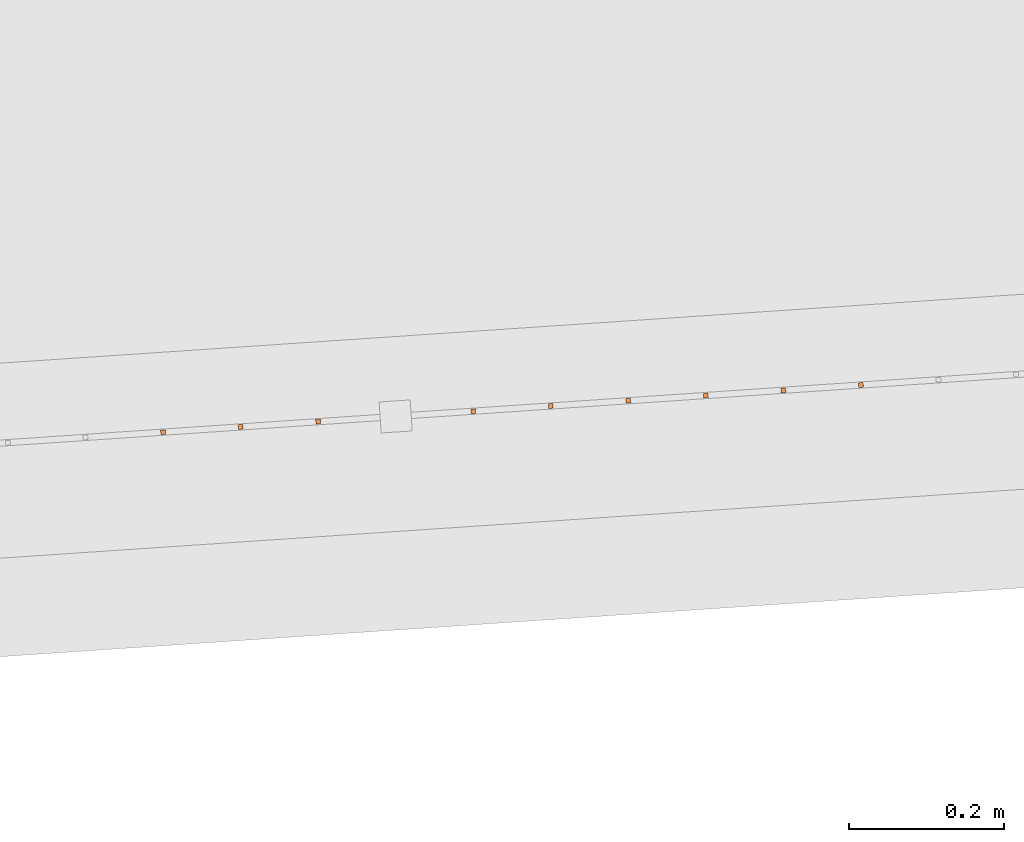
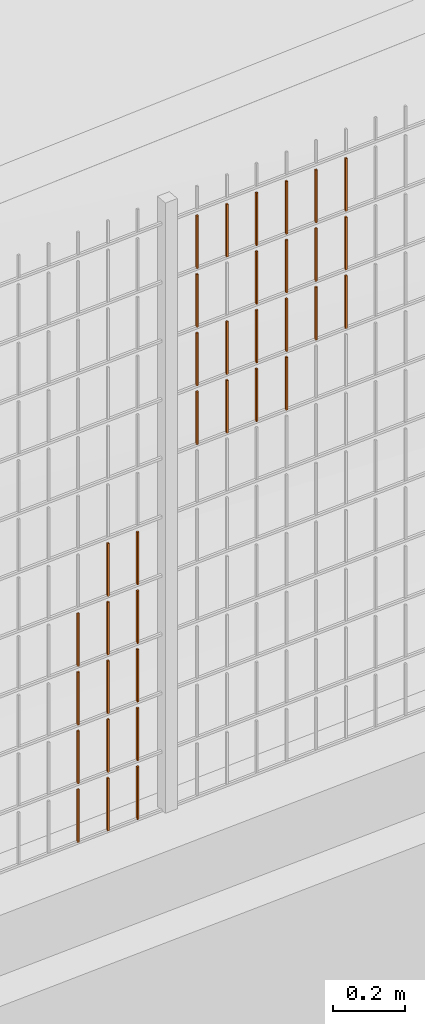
# One storey, part 387 of 1809: 35 proxies, 1 element without a shape of its own.
"""IFC2X3 building model written with IfcOpenShell, lengths in millimetres."""

import ifcopenshell
import ifcopenshell.guid

model = None  # the IFC model being written
_history = None  # IfcOwnerHistory: only IFC2X3 demands one
_inside = {}  # id of a spatial element -> (the spatial element, [elements in it])
_under = {}  # id of a project, library or spatial element -> (it, [spatial elements below it])
_declared = {}  # id of a project -> (the project, [libraries it declares])
_typed = {}  # id of a type object -> (the type object, [elements of that type])
_made_of = {}  # id of a material, layer set ... -> (it, [elements and type objects made of it])


def new_model(schema):
    """Start an empty IFC model of exactly this schema.

    Asked for "IFC4X3", IfcOpenShell would pick the latest addendum, in which some entities
    have other attributes; the version numbers below select the first issue.
    IFC2X3 requires an IfcOwnerHistory on every rooted entity: one is made here for all.
    """
    global model, _history
    if schema == "IFC4X3":
        model = ifcopenshell.file(schema_version=(4, 3, 0, 0))
    else:
        model = ifcopenshell.file(schema=schema)
    _inside.clear()
    _under.clear()
    _declared.clear()
    _typed.clear()
    _made_of.clear()
    _history = None
    if model.schema == "IFC2X3":
        org = make("IfcOrganization", Name="unknown")
        user = make(
            "IfcPersonAndOrganization",
            ThePerson=make("IfcPerson", FamilyName="unknown"),
            TheOrganization=org,
        )
        app = make(
            "IfcApplication",
            ApplicationDeveloper=org,
            Version="unknown",
            ApplicationFullName="unknown",
            ApplicationIdentifier="unknown",
        )
        _history = make(
            "IfcOwnerHistory",
            OwningUser=user,
            OwningApplication=app,
            ChangeAction="ADDED",
            CreationDate=0,
        )
    return model


def make(cls, **values):
    """One entity of the class cls with the attributes given. An attribute that is None is left unset."""
    return model.create_entity(
        cls, **{name: value for name, value in values.items() if value is not None}
    )


def entity(cls, *values):
    """Any entity or typed value of the class cls, its attributes in the order of the schema. None: left unset."""
    e = model.create_entity(cls)
    for i, value in enumerate(values):
        if value is not None:
            e[i] = value
    return e


def rooted(cls, **values):
    """An entity with a GlobalId (a new one), such as an element, a storey or a relation."""
    return make(cls, GlobalId=ifcopenshell.guid.new(), OwnerHistory=_history, **values)


def si_unit(unit_type, name, prefix=None):
    """IfcSIUnit, for example si_unit("LENGTHUNIT", "METRE", prefix="MILLI")."""
    return make("IfcSIUnit", UnitType=unit_type, Prefix=prefix, Name=name)


def converted_unit(unit_type, name, factor, base, dimensions=None, offset=None):
    """IfcConversionBasedUnit, such as the inch: factor (a typed value) times the base unit."""
    return make(
        "IfcConversionBasedUnit"
        if offset is None
        else "IfcConversionBasedUnitWithOffset",
        ConversionOffset=offset,
        Dimensions=None
        if dimensions is None
        else entity("IfcDimensionalExponents", *dimensions),
        UnitType=unit_type,
        Name=name,
        ConversionFactor=make(
            "IfcMeasureWithUnit", ValueComponent=factor, UnitComponent=base
        ),
    )


def derived_unit(unit_type, elements):
    """IfcDerivedUnit: a product of units, each with its exponent."""
    return make(
        "IfcDerivedUnit",
        Elements=[
            make("IfcDerivedUnitElement", Unit=unit, Exponent=power)
            for unit, power in elements
        ],
        UnitType=unit_type,
    )


def money_unit(currency):
    """IfcMonetaryUnit."""
    return make("IfcMonetaryUnit", Currency=currency)


def assignment(units):
    """IfcUnitAssignment: the units of a project."""
    return None if units is None else make("IfcUnitAssignment", Units=units)


def point(xyz):
    """IfcCartesianPoint."""
    return None if xyz is None else make("IfcCartesianPoint", Coordinates=xyz)


def direction(xyz):
    """IfcDirection."""
    return None if xyz is None else make("IfcDirection", DirectionRatios=xyz)


def frame(location, z_axis=None, x_axis=None):
    """IfcAxis2Placement3D, a coordinate frame: its origin and axes. An axis left out is left unset."""
    return make(
        "IfcAxis2Placement3D",
        Location=point(location),
        Axis=direction(z_axis),
        RefDirection=direction(x_axis),
    )


def origin_with_axes():
    """The frame at (0, 0, 0) with the z axis (0, 0, 1) and the x axis (1, 0, 0) written out."""
    return frame((0.0, 0.0, 0.0), z_axis=(0.0, 0.0, 1.0), x_axis=(1.0, 0.0, 0.0))


def place(relative_to, where):
    """IfcLocalPlacement: puts the frame where relative to a parent placement (None: the world)."""
    return make(
        "IfcLocalPlacement", PlacementRelTo=relative_to, RelativePlacement=where
    )


def context(
    kind, dimensions, precision=None, world=None, true_north=None, identifier=None
):
    """IfcGeometricRepresentationContext, for example the 3D "Model" context."""
    return make(
        "IfcGeometricRepresentationContext",
        ContextIdentifier=identifier,
        ContextType=kind,
        CoordinateSpaceDimension=dimensions,
        Precision=precision,
        WorldCoordinateSystem=world,
        TrueNorth=true_north,
    )


def subcontext(parent, identifier, kind, view, scale=None):
    """IfcGeometricRepresentationSubContext, for example "Body" below "Model"."""
    return make(
        "IfcGeometricRepresentationSubContext",
        ContextIdentifier=identifier,
        ContextType=kind,
        ParentContext=parent,
        TargetScale=scale,
        TargetView=view,
    )


def project(units=None, contexts=None):
    """IfcProject with its units and contexts."""
    return rooted(
        "IfcProject",
        Name="project",
        RepresentationContexts=contexts,
        UnitsInContext=assignment(units),
    )


def spatial(cls, under=None, at=None, **own):
    """A site, building, storey or space (cls), placed at a placement, below another one or the project."""
    s = rooted(cls, ObjectPlacement=at, **own)
    if under is not None:
        _under.setdefault(under.id(), (under, []))[1].append(s)
    return s


def faces_of(points, faces, orient=None, outer=None):
    """IfcFace entities. A face is a list of loops; a loop is a list of indices into points, from 0.

    orient and outer hold one flag for each loop. By default every Orientation is true, the
    first loop of a face is its IfcFaceOuterBound and the others are IfcFaceBound.
    """
    made = []
    for i, loops in enumerate(faces):
        bounds = []
        for j, loop in enumerate(loops):
            is_outer = j == 0 if outer is None else outer[i][j]
            bounds.append(
                make(
                    "IfcFaceOuterBound" if is_outer else "IfcFaceBound",
                    Bound=make("IfcPolyLoop", Polygon=[points[k] for k in loop]),
                    Orientation=True if orient is None else orient[i][j],
                )
            )
        made.append(make("IfcFace", Bounds=bounds))
    return made


def faceted_brep(points, faces, orient=None, outer=None, voids=None):
    """IfcFacetedBrep: a solid bounded by flat faces; with voids (closed shells), ...WithVoids."""
    shared = [point(p) for p in points]
    hull = make("IfcClosedShell", CfsFaces=faces_of(shared, faces, orient, outer))
    if voids is None:
        return make("IfcFacetedBrep", Outer=hull)
    return make(
        "IfcFacetedBrepWithVoids",
        Outer=hull,
        Voids=[
            make(cls, CfsFaces=faces_of(shared, fs, o, b)) for cls, fs, o, b in voids
        ],
    )


def shape(context_of_items, identifier, shape_type, items):
    """IfcShapeRepresentation: the items that make up one representation, for example the "Body"."""
    return make(
        "IfcShapeRepresentation",
        ContextOfItems=context_of_items,
        RepresentationIdentifier=identifier,
        RepresentationType=shape_type,
        Items=items,
    )


def source(mapping_origin, context_of_items, identifier, shape_type, items):
    """IfcRepresentationMap: a shape defined once, which mapped items show again and again."""
    return make(
        "IfcRepresentationMap",
        MappingOrigin=mapping_origin,
        MappedRepresentation=shape(context_of_items, identifier, shape_type, items),
    )


def transform(
    local_origin,
    x_axis=None,
    y_axis=None,
    z_axis=None,
    scale=None,
    scale2=None,
    scale3=None,
    uniform=True,
):
    """IfcCartesianTransformationOperator3D, or its non-uniform kind. x_axis, y_axis, z_axis: its Axis1, 2, 3."""
    if uniform:
        return make(
            "IfcCartesianTransformationOperator3D",
            Axis1=direction(x_axis),
            Axis2=direction(y_axis),
            LocalOrigin=point(local_origin),
            Scale=scale,
            Axis3=direction(z_axis),
        )
    return make(
        "IfcCartesianTransformationOperator3DnonUniform",
        Axis1=direction(x_axis),
        Axis2=direction(y_axis),
        LocalOrigin=point(local_origin),
        Scale=scale,
        Axis3=direction(z_axis),
        Scale2=scale2,
        Scale3=scale3,
    )


def mapped(mapping_source, mapping_target):
    """IfcMappedItem: shows the shape of a source again, moved by a transform."""
    return make(
        "IfcMappedItem", MappingSource=mapping_source, MappingTarget=mapping_target
    )


def material(Name=None, Category=None):
    """IfcMaterial."""
    return make("IfcMaterial", Name=Name, Category=Category)


def made_of(thing, what):
    """Note that an element or type object is made of a material, layer set ...; save() writes the relation."""
    if what is not None:
        _made_of.setdefault(what.id(), (what, []))[1].append(thing)
    return thing


def type_object(cls, material=None, **own):
    """A type object (cls), such as IfcWallType, which elements share."""
    return made_of(rooted(cls, **own), material)


def element(
    cls,
    number,
    at=None,
    inside=None,
    cuts=None,
    type_object=None,
    material=None,
    context=None,
    identifier="Body",
    shape_type=None,
    held_by="IfcProductDefinitionShape",
    body=None,
    shapes=None,
    **own,
):
    """One element of the class cls, such as IfcWall. Its Tag is "e" and its number.

    at: its placement. inside: the storey or other place that contains it. cuts: it is an
    opening in that element (IfcRelVoidsElement). A single representation is given by context,
    identifier, shape_type and body (its items); several are given by shapes. held_by: the class
    of the entity that holds the representations. save() writes the other relations.
    """
    e = rooted(cls, Tag="e%d" % number, ObjectPlacement=at, **own)
    if body is not None:
        shapes = [shape(context, identifier, shape_type, body)]
    if shapes is not None:
        e.Representation = make(held_by, Representations=shapes)
    if inside is not None:
        _inside.setdefault(inside.id(), (inside, []))[1].append(e)
    if cuts is not None:
        rooted(
            "IfcRelVoidsElement", RelatingBuildingElement=cuts, RelatedOpeningElement=e
        )
    if type_object is not None:
        _typed.setdefault(type_object.id(), (type_object, []))[1].append(e)
    return made_of(e, material)


def aggregate(whole, parts):
    """IfcRelAggregates: a whole, such as a stair, and the parts it consists of."""
    return rooted("IfcRelAggregates", RelatingObject=whole, RelatedObjects=parts)


def save(model, path):
    """Write the relations noted so far, then the file.

    IfcRelAggregates (storeys below a building ...), IfcRelContainedInSpatialStructure (elements
    in a storey), IfcRelDefinesByType, IfcRelAssociatesMaterial and IfcRelDeclares: one each for
    every whole, place, type object, material and project.
    """
    for whole, parts in _under.values():
        aggregate(whole, parts)
    for where, things in _inside.values():
        rooted(
            "IfcRelContainedInSpatialStructure",
            RelatedElements=things,
            RelatingStructure=where,
        )
    for kind, things in _typed.values():
        rooted("IfcRelDefinesByType", RelatedObjects=things, RelatingType=kind)
    for what, things in _made_of.values():
        rooted("IfcRelAssociatesMaterial", RelatedObjects=things, RelatingMaterial=what)
    for by, libraries in _declared.values():
        rooted("IfcRelDeclares", RelatingContext=by, RelatedDefinitions=libraries)
    model.write(path)


model = new_model("IFC2X3")

# Units and contexts
model_context = context("Model", 3, precision=0.01, world=origin_with_axes(), true_north=direction((0.0, 1.0)))
body_context = subcontext(model_context, "Body", "Model", "MODEL_VIEW")
ifc_project = project(units=[si_unit("LENGTHUNIT", "METRE", prefix="MILLI"), si_unit("AREAUNIT", "SQUARE_METRE"), si_unit("VOLUMEUNIT", "CUBIC_METRE"), converted_unit("PLANEANGLEUNIT", "DEGREE", entity("IfcPlaneAngleMeasure", 0.0174532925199), si_unit("PLANEANGLEUNIT", "RADIAN"), dimensions=[0, 0, 0, 0, 0, 0, 0]), si_unit("SOLIDANGLEUNIT", "STERADIAN"), money_unit("EUR"), converted_unit("TIMEUNIT", "Year", entity("IfcTimeMeasure", 31556926.0), si_unit("TIMEUNIT", "SECOND"), dimensions=[0, 0, 1, 0, 0, 0, 0]), si_unit("MASSUNIT", "GRAM", prefix="KILO"), si_unit("THERMODYNAMICTEMPERATUREUNIT", "DEGREE_CELSIUS"), si_unit("LUMINOUSINTENSITYUNIT", "LUMEN"), si_unit("ENERGYUNIT", "JOULE", prefix="MEGA"), derived_unit("THERMALCONDUCTANCEUNIT", [(si_unit("POWERUNIT", "WATT"), 1), (si_unit("LENGTHUNIT", "METRE"), -1), (si_unit("THERMODYNAMICTEMPERATUREUNIT", "KELVIN"), -1)]), derived_unit("SPECIFICHEATCAPACITYUNIT", [(si_unit("ENERGYUNIT", "JOULE"), 1), (si_unit("MASSUNIT", "GRAM", prefix="KILO"), -1), (si_unit("THERMODYNAMICTEMPERATUREUNIT", "KELVIN"), -1)]), derived_unit("MASSDENSITYUNIT", [(si_unit("MASSUNIT", "GRAM", prefix="KILO"), 1), (si_unit("VOLUMEUNIT", "CUBIC_METRE"), -1)])], contexts=[model_context])

# Site, building, storey
site_placement = place(None, origin_with_axes())
site = spatial("IfcSite", under=ifc_project, at=site_placement, Name="Politse- ja Piirivalveameti ning Päästeameti ühishoone", CompositionType="ELEMENT")
building_placement = place(site_placement, origin_with_axes())
building = spatial("IfcBuilding", under=site, at=building_placement, Name="Politse- ja Piirivalveameti ning Päästeameti ühishoone", CompositionType="ELEMENT")
storey_placement = place(building_placement, origin_with_axes())
storey = spatial("IfcBuildingStorey", under=building, at=storey_placement, Name="Esimene korrus", CompositionType="ELEMENT", Elevation=0.0)

# Proxies
building_element_proxy_type_1 = type_object("IfcBuildingElementProxyType", Name="Railing Type", PredefinedType="NOTDEFINED")
proxy_1_placement = place(storey_placement, frame((89252.001212, -29183.4766571, 203.661247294), z_axis=(0.0, 0.0, 1.0), x_axis=(1.0, 0.0, 0.0)))
proxy_1 = element("IfcBuildingElementProxy", 1, at=proxy_1_placement, inside=storey, type_object=building_element_proxy_type_1, Name="PIIRDEAED")
ifc_material = material(Name="ET-03_Raud")
building_element_proxy_type_2 = type_object("IfcBuildingElementProxyType", Name="IfcBuildingElementProxy", PredefinedType="NOTDEFINED")
shared_shape_1 = source(origin_with_axes(), body_context, "Body", "Brep", [
    faceted_brep([(3.0, 3.0, -0.000752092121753), (-3.0, 3.0, -0.000752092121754), (-3.0, 3.0, 179.99926046), (3.0, 3.0, 179.99926046), (3.0, -3.0, 0.000752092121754), (-3.0, -3.0, 0.000752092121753), (-3.0, -3.0, 180.000764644), (3.0, -3.0, 180.000764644)], [[[0, 1, 2, 3]], [[0, 4, 5, 1]], [[1, 5, 6, 2]], [[3, 2, 6, 7]], [[4, 0, 3, 7]], [[5, 4, 7, 6]]]),
])
proxy_2_placement = place(proxy_1_placement, frame((-15092.2979017, -18317.2025286, 23.4421645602), z_axis=(0.0, 0.0, 1.0), x_axis=(1.0, 0.0, 0.0)))
proxy_2 = element("IfcBuildingElementProxy", 2, at=proxy_2_placement, type_object=building_element_proxy_type_2, material=ifc_material, Name="BALUSTER - 001", context=body_context, shape_type="MappedRepresentation", body=[
    mapped(shared_shape_1, transform((0.0, 0.0, 0.0), x_axis=(-0.0673926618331, 0.997726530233, 0.0), y_axis=(-0.997726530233, -0.0673926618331, 0.0), z_axis=(0.0, 0.0, 1.0))),
])
shared_shape_2 = source(origin_with_axes(), body_context, "Body", "Brep", [
    faceted_brep([(3.0, 3.0, -0.000752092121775), (-3.0, 3.0, -0.000752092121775), (-3.0, 3.0, 179.99926046), (3.0, 3.0, 179.99926046), (3.0, -3.0, 0.000752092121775), (-3.0, -3.0, 0.000752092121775), (-3.0, -3.0, 180.000764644), (3.0, -3.0, 180.000764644)], [[[0, 1, 2, 3]], [[0, 4, 5, 1]], [[1, 5, 6, 2]], [[3, 2, 6, 7]], [[4, 0, 3, 7]], [[5, 4, 7, 6]]]),
])
proxy_3_placement = place(proxy_1_placement, frame((-14992.5252487, -18310.4632624, 23.4672342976), z_axis=(0.0, 0.0, 1.0), x_axis=(1.0, 0.0, 0.0)))
proxy_3 = element("IfcBuildingElementProxy", 3, at=proxy_3_placement, type_object=building_element_proxy_type_2, material=ifc_material, Name="BALUSTER - 001", context=body_context, shape_type="MappedRepresentation", body=[
    mapped(shared_shape_2, transform((0.0, 0.0, 0.0), x_axis=(-0.0673926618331, 0.997726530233, 0.0), y_axis=(-0.997726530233, -0.0673926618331, 0.0), z_axis=(0.0, 0.0, 1.0))),
])
proxy_4_placement = place(proxy_1_placement, frame((-14992.5252487, -18310.4632624, 223.467234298), z_axis=(0.0, 0.0, 1.0), x_axis=(1.0, 0.0, 0.0)))
proxy_4 = element("IfcBuildingElementProxy", 4, at=proxy_4_placement, type_object=building_element_proxy_type_2, material=ifc_material, Name="BALUSTER - 001", context=body_context, shape_type="MappedRepresentation", body=[
    mapped(shared_shape_2, transform((0.0, 0.0, 0.0), x_axis=(-0.0673926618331, 0.997726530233, 0.0), y_axis=(-0.997726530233, -0.0673926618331, 0.0), z_axis=(0.0, 0.0, 1.0))),
])
shared_shape_3 = source(origin_with_axes(), body_context, "Body", "Brep", [
    faceted_brep([(3.0, 3.0, -0.000752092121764), (-3.0, 3.0, -0.000752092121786), (-3.0, 3.0, 179.99926046), (3.0, 3.0, 179.99926046), (3.0, -3.0, 0.000752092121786), (-3.0, -3.0, 0.000752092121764), (-3.0, -3.0, 180.000764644), (3.0, -3.0, 180.000764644)], [[[0, 1, 2, 3]], [[0, 4, 5, 1]], [[1, 5, 6, 2]], [[3, 2, 6, 7]], [[4, 0, 3, 7]], [[5, 4, 7, 6]]]),
])
proxy_5_placement = place(proxy_1_placement, frame((-14892.7525957, -18303.7239962, 23.492304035), z_axis=(0.0, 0.0, 1.0), x_axis=(1.0, 0.0, 0.0)))
proxy_5 = element("IfcBuildingElementProxy", 5, at=proxy_5_placement, type_object=building_element_proxy_type_2, material=ifc_material, Name="BALUSTER - 001", context=body_context, shape_type="MappedRepresentation", body=[
    mapped(shared_shape_3, transform((0.0, 0.0, 0.0), x_axis=(-0.0673926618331, 0.997726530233, 0.0), y_axis=(-0.997726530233, -0.0673926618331, 0.0), z_axis=(0.0, 0.0, 1.0))),
])
shared_shape_4 = source(origin_with_axes(), body_context, "Body", "Brep", [
    faceted_brep([(3.0, 3.0, -0.000752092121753), (-3.0, 3.0, -0.000752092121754), (-3.0, 3.0, 179.99926046), (3.0, 3.0, 179.99926046), (3.0, -3.0, 0.000752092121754), (-3.0, -3.0, 0.000752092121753), (-3.0, -3.0, 180.000764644), (3.0, -3.0, 180.000764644)], [[[0, 1, 2, 3]], [[0, 4, 5, 1]], [[1, 5, 6, 2]], [[3, 2, 6, 7]], [[4, 0, 3, 7]], [[5, 4, 7, 6]]]),
])
proxy_6_placement = place(proxy_1_placement, frame((-15092.2979017, -18317.2025286, 223.44216456), z_axis=(0.0, 0.0, 1.0), x_axis=(1.0, 0.0, 0.0)))
proxy_6 = element("IfcBuildingElementProxy", 6, at=proxy_6_placement, type_object=building_element_proxy_type_2, material=ifc_material, Name="BALUSTER - 001", context=body_context, shape_type="MappedRepresentation", body=[
    mapped(shared_shape_4, transform((0.0, 0.0, 0.0), x_axis=(-0.0673926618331, 0.997726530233, 0.0), y_axis=(-0.997726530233, -0.0673926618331, 0.0), z_axis=(0.0, 0.0, 1.0))),
])
proxy_7_placement = place(proxy_1_placement, frame((-15092.2979017, -18317.2025286, 423.44216456), z_axis=(0.0, 0.0, 1.0), x_axis=(1.0, 0.0, 0.0)))
proxy_7 = element("IfcBuildingElementProxy", 7, at=proxy_7_placement, type_object=building_element_proxy_type_2, material=ifc_material, Name="BALUSTER - 001", context=body_context, shape_type="MappedRepresentation", body=[
    mapped(shared_shape_4, transform((0.0, 0.0, 0.0), x_axis=(-0.0673926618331, 0.997726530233, 0.0), y_axis=(-0.997726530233, -0.0673926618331, 0.0), z_axis=(0.0, 0.0, 1.0))),
])
shared_shape_5 = source(origin_with_axes(), body_context, "Body", "Brep", [
    faceted_brep([(3.0, 3.0, -0.000752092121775), (-3.0, 3.0, -0.000752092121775), (-3.0, 3.0, 179.99926046), (3.0, 3.0, 179.99926046), (3.0, -3.0, 0.000752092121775), (-3.0, -3.0, 0.000752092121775), (-3.0, -3.0, 180.000764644), (3.0, -3.0, 180.000764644)], [[[0, 1, 2, 3]], [[0, 4, 5, 1]], [[1, 5, 6, 2]], [[3, 2, 6, 7]], [[4, 0, 3, 7]], [[5, 4, 7, 6]]]),
])
proxy_8_placement = place(proxy_1_placement, frame((-14992.5252487, -18310.4632624, 423.467234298), z_axis=(0.0, 0.0, 1.0), x_axis=(1.0, 0.0, 0.0)))
proxy_8 = element("IfcBuildingElementProxy", 8, at=proxy_8_placement, type_object=building_element_proxy_type_2, material=ifc_material, Name="BALUSTER - 001", context=body_context, shape_type="MappedRepresentation", body=[
    mapped(shared_shape_5, transform((0.0, 0.0, 0.0), x_axis=(-0.0673926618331, 0.997726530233, 0.0), y_axis=(-0.997726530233, -0.0673926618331, 0.0), z_axis=(0.0, 0.0, 1.0))),
])
shared_shape_6 = source(origin_with_axes(), body_context, "Body", "Brep", [
    faceted_brep([(3.0, 3.0, -0.000752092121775), (-3.0, 3.0, -0.000752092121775), (-3.0, 3.0, 179.99926046), (3.0, 3.0, 179.99926046), (3.0, -3.0, 0.000752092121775), (-3.0, -3.0, 0.000752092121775), (-3.0, -3.0, 180.000764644), (3.0, -3.0, 180.000764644)], [[[0, 1, 2, 3]], [[0, 4, 5, 1]], [[1, 5, 6, 2]], [[3, 2, 6, 7]], [[4, 0, 3, 7]], [[5, 4, 7, 6]]]),
])
proxy_9_placement = place(proxy_1_placement, frame((-14992.5252487, -18310.4632624, 823.467234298), z_axis=(0.0, 0.0, 1.0), x_axis=(1.0, 0.0, 0.0)))
proxy_9 = element("IfcBuildingElementProxy", 9, at=proxy_9_placement, type_object=building_element_proxy_type_2, material=ifc_material, Name="BALUSTER - 001", context=body_context, shape_type="MappedRepresentation", body=[
    mapped(shared_shape_6, transform((0.0, 0.0, 0.0), x_axis=(-0.0673926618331, 0.997726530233, 0.0), y_axis=(-0.997726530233, -0.0673926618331, 0.0), z_axis=(0.0, 0.0, 1.0))),
])
shared_shape_7 = source(origin_with_axes(), body_context, "Body", "Brep", [
    faceted_brep([(3.0, 3.0, -0.000752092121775), (-3.0, 3.0, -0.000752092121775), (-3.0, 3.0, 179.99926046), (3.0, 3.0, 179.99926046), (3.0, -3.0, 0.000752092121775), (-3.0, -3.0, 0.000752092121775), (-3.0, -3.0, 180.000764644), (3.0, -3.0, 180.000764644)], [[[0, 1, 2, 3]], [[0, 4, 5, 1]], [[1, 5, 6, 2]], [[3, 2, 6, 7]], [[4, 0, 3, 7]], [[5, 4, 7, 6]]]),
])
proxy_10_placement = place(proxy_1_placement, frame((-14992.5252487, -18310.4632624, 623.467234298), z_axis=(0.0, 0.0, 1.0), x_axis=(1.0, 0.0, 0.0)))
proxy_10 = element("IfcBuildingElementProxy", 10, at=proxy_10_placement, type_object=building_element_proxy_type_2, material=ifc_material, Name="BALUSTER - 001", context=body_context, shape_type="MappedRepresentation", body=[
    mapped(shared_shape_7, transform((0.0, 0.0, 0.0), x_axis=(-0.0673926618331, 0.997726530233, 0.0), y_axis=(-0.997726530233, -0.0673926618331, 0.0), z_axis=(0.0, 0.0, 1.0))),
])
shared_shape_8 = source(origin_with_axes(), body_context, "Body", "Brep", [
    faceted_brep([(3.0, 3.0, -0.000752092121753), (-3.0, 3.0, -0.000752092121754), (-3.0, 3.0, 179.99926046), (3.0, 3.0, 179.99926046), (3.0, -3.0, 0.000752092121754), (-3.0, -3.0, 0.000752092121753), (-3.0, -3.0, 180.000764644), (3.0, -3.0, 180.000764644)], [[[0, 1, 2, 3]], [[0, 4, 5, 1]], [[1, 5, 6, 2]], [[3, 2, 6, 7]], [[4, 0, 3, 7]], [[5, 4, 7, 6]]]),
])
proxy_11_placement = place(proxy_1_placement, frame((-15092.2979017, -18317.2025286, 623.44216456), z_axis=(0.0, 0.0, 1.0), x_axis=(1.0, 0.0, 0.0)))
proxy_11 = element("IfcBuildingElementProxy", 11, at=proxy_11_placement, type_object=building_element_proxy_type_2, material=ifc_material, Name="BALUSTER - 001", context=body_context, shape_type="MappedRepresentation", body=[
    mapped(shared_shape_8, transform((0.0, 0.0, 0.0), x_axis=(-0.0673926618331, 0.997726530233, 0.0), y_axis=(-0.997726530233, -0.0673926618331, 0.0), z_axis=(0.0, 0.0, 1.0))),
])
shared_shape_9 = source(origin_with_axes(), body_context, "Body", "Brep", [
    faceted_brep([(3.0, 3.0, -0.000752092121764), (-3.0, 3.0, -0.000752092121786), (-3.0, 3.0, 179.99926046), (3.0, 3.0, 179.99926046), (3.0, -3.0, 0.000752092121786), (-3.0, -3.0, 0.000752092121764), (-3.0, -3.0, 180.000764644), (3.0, -3.0, 180.000764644)], [[[0, 1, 2, 3]], [[0, 4, 5, 1]], [[1, 5, 6, 2]], [[3, 2, 6, 7]], [[4, 0, 3, 7]], [[5, 4, 7, 6]]]),
])
proxy_12_placement = place(proxy_1_placement, frame((-14892.7525957, -18303.7239962, 823.492304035), z_axis=(0.0, 0.0, 1.0), x_axis=(1.0, 0.0, 0.0)))
proxy_12 = element("IfcBuildingElementProxy", 12, at=proxy_12_placement, type_object=building_element_proxy_type_2, material=ifc_material, Name="BALUSTER - 001", context=body_context, shape_type="MappedRepresentation", body=[
    mapped(shared_shape_9, transform((0.0, 0.0, 0.0), x_axis=(-0.0673926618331, 0.997726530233, 0.0), y_axis=(-0.997726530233, -0.0673926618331, 0.0), z_axis=(0.0, 0.0, 1.0))),
])
shared_shape_10 = source(origin_with_axes(), body_context, "Body", "Brep", [
    faceted_brep([(3.0, 3.0, -0.000752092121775), (-3.0, 3.0, -0.000752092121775), (-3.0, 3.0, 179.99926046), (3.0, 3.0, 179.99926046), (3.0, -3.0, 0.000752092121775), (-3.0, -3.0, 0.000752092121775), (-3.0, -3.0, 180.000764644), (3.0, -3.0, 180.000764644)], [[[0, 1, 2, 3]], [[0, 4, 5, 1]], [[1, 5, 6, 2]], [[3, 2, 6, 7]], [[4, 0, 3, 7]], [[5, 4, 7, 6]]]),
])
proxy_13_placement = place(proxy_1_placement, frame((-14493.6619836, -18276.7669315, 1223.59258298), z_axis=(0.0, 0.0, 1.0), x_axis=(1.0, 0.0, 0.0)))
proxy_13 = element("IfcBuildingElementProxy", 13, at=proxy_13_placement, type_object=building_element_proxy_type_2, material=ifc_material, Name="BALUSTER - 001", context=body_context, shape_type="MappedRepresentation", body=[
    mapped(shared_shape_10, transform((0.0, 0.0, 0.0), x_axis=(-0.0673926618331, 0.997726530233, 0.0), y_axis=(-0.997726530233, -0.0673926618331, 0.0), z_axis=(0.0, 0.0, 1.0))),
])
proxy_14_placement = place(proxy_1_placement, frame((-14393.8893305, -18270.0276653, 1823.61765272), z_axis=(0.0, 0.0, 1.0), x_axis=(1.0, 0.0, 0.0)))
proxy_14 = element("IfcBuildingElementProxy", 14, at=proxy_14_placement, type_object=building_element_proxy_type_2, material=ifc_material, Name="BALUSTER - 001", context=body_context, shape_type="MappedRepresentation", body=[
    mapped(shared_shape_10, transform((0.0, 0.0, 0.0), x_axis=(-0.0673926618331, 0.997726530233, 0.0), y_axis=(-0.997726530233, -0.0673926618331, 0.0), z_axis=(0.0, 0.0, 1.0))),
])
shared_shape_11 = source(origin_with_axes(), body_context, "Body", "Brep", [
    faceted_brep([(3.0, 3.0, -0.000752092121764), (-3.0, 3.0, -0.000752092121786), (-3.0, 3.0, 179.99926046), (3.0, 3.0, 179.99926046), (3.0, -3.0, 0.000752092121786), (-3.0, -3.0, 0.000752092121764), (-3.0, -3.0, 180.000764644), (3.0, -3.0, 180.000764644)], [[[0, 1, 2, 3]], [[0, 4, 5, 1]], [[1, 5, 6, 2]], [[3, 2, 6, 7]], [[4, 0, 3, 7]], [[5, 4, 7, 6]]]),
])
proxy_15_placement = place(proxy_1_placement, frame((-14693.2072896, -18290.2454639, 1823.54244351), z_axis=(0.0, 0.0, 1.0), x_axis=(1.0, 0.0, 0.0)))
proxy_15 = element("IfcBuildingElementProxy", 15, at=proxy_15_placement, type_object=building_element_proxy_type_2, material=ifc_material, Name="BALUSTER - 001", context=body_context, shape_type="MappedRepresentation", body=[
    mapped(shared_shape_11, transform((0.0, 0.0, 0.0), x_axis=(-0.0673926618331, 0.997726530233, 0.0), y_axis=(-0.997726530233, -0.0673926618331, 0.0), z_axis=(0.0, 0.0, 1.0))),
])
shared_shape_12 = source(origin_with_axes(), body_context, "Body", "Brep", [
    faceted_brep([(3.0, 3.0, -0.000752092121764), (-3.0, 3.0, -0.000752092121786), (-3.0, 3.0, 179.99926046), (3.0, 3.0, 179.99926046), (3.0, -3.0, 0.000752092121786), (-3.0, -3.0, 0.000752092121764), (-3.0, -3.0, 180.000764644), (3.0, -3.0, 180.000764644)], [[[0, 1, 2, 3]], [[0, 4, 5, 1]], [[1, 5, 6, 2]], [[3, 2, 6, 7]], [[4, 0, 3, 7]], [[5, 4, 7, 6]]]),
])
proxy_16_placement = place(proxy_1_placement, frame((-14194.3440245, -18256.5491329, 1623.6677922), z_axis=(0.0, 0.0, 1.0), x_axis=(1.0, 0.0, 0.0)))
proxy_16 = element("IfcBuildingElementProxy", 16, at=proxy_16_placement, type_object=building_element_proxy_type_2, material=ifc_material, Name="BALUSTER - 001", context=body_context, shape_type="MappedRepresentation", body=[
    mapped(shared_shape_12, transform((0.0, 0.0, 0.0), x_axis=(-0.0673926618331, 0.997726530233, 0.0), y_axis=(-0.997726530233, -0.0673926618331, 0.0), z_axis=(0.0, 0.0, 1.0))),
])
shared_shape_13 = source(origin_with_axes(), body_context, "Body", "Brep", [
    faceted_brep([(3.0, 3.0, -0.000752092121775), (-3.0, 3.0, -0.000752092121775), (-3.0, 3.0, 179.99926046), (3.0, 3.0, 179.99926046), (3.0, -3.0, 0.000752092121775), (-3.0, -3.0, 0.000752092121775), (-3.0, -3.0, 180.000764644), (3.0, -3.0, 180.000764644)], [[[0, 1, 2, 3]], [[0, 4, 5, 1]], [[1, 5, 6, 2]], [[3, 2, 6, 7]], [[4, 0, 3, 7]], [[5, 4, 7, 6]]]),
])
proxy_17_placement = place(proxy_1_placement, frame((-14393.8893305, -18270.0276653, 1223.61765272), z_axis=(0.0, 0.0, 1.0), x_axis=(1.0, 0.0, 0.0)))
proxy_17 = element("IfcBuildingElementProxy", 17, at=proxy_17_placement, type_object=building_element_proxy_type_2, material=ifc_material, Name="BALUSTER - 001", context=body_context, shape_type="MappedRepresentation", body=[
    mapped(shared_shape_13, transform((0.0, 0.0, 0.0), x_axis=(-0.0673926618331, 0.997726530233, 0.0), y_axis=(-0.997726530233, -0.0673926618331, 0.0), z_axis=(0.0, 0.0, 1.0))),
])
proxy_18_placement = place(proxy_1_placement, frame((-14493.6619836, -18276.7669315, 1823.59258298), z_axis=(0.0, 0.0, 1.0), x_axis=(1.0, 0.0, 0.0)))
proxy_18 = element("IfcBuildingElementProxy", 18, at=proxy_18_placement, type_object=building_element_proxy_type_2, material=ifc_material, Name="BALUSTER - 001", context=body_context, shape_type="MappedRepresentation", body=[
    mapped(shared_shape_13, transform((0.0, 0.0, 0.0), x_axis=(-0.0673926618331, 0.997726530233, 0.0), y_axis=(-0.997726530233, -0.0673926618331, 0.0), z_axis=(0.0, 0.0, 1.0))),
])
shared_shape_14 = source(origin_with_axes(), body_context, "Body", "Brep", [
    faceted_brep([(3.0, 3.0, -0.000752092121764), (-3.0, 3.0, -0.000752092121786), (-3.0, 3.0, 179.99926046), (3.0, 3.0, 179.99926046), (3.0, -3.0, 0.000752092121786), (-3.0, -3.0, 0.000752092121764), (-3.0, -3.0, 180.000764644), (3.0, -3.0, 180.000764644)], [[[0, 1, 2, 3]], [[0, 4, 5, 1]], [[1, 5, 6, 2]], [[3, 2, 6, 7]], [[4, 0, 3, 7]], [[5, 4, 7, 6]]]),
])
proxy_19_placement = place(proxy_1_placement, frame((-14693.2072896, -18290.2454639, 1223.54244351), z_axis=(0.0, 0.0, 1.0), x_axis=(1.0, 0.0, 0.0)))
proxy_19 = element("IfcBuildingElementProxy", 19, at=proxy_19_placement, type_object=building_element_proxy_type_2, material=ifc_material, Name="BALUSTER - 001", context=body_context, shape_type="MappedRepresentation", body=[
    mapped(shared_shape_14, transform((0.0, 0.0, 0.0), x_axis=(-0.0673926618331, 0.997726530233, 0.0), y_axis=(-0.997726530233, -0.0673926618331, 0.0), z_axis=(0.0, 0.0, 1.0))),
])
shared_shape_15 = source(origin_with_axes(), body_context, "Body", "Brep", [
    faceted_brep([(3.0, 3.0, -0.000752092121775), (-3.0, 3.0, -0.000752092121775), (-3.0, 3.0, 179.99926046), (3.0, 3.0, 179.99926046), (3.0, -3.0, 0.000752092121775), (-3.0, -3.0, 0.000752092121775), (-3.0, -3.0, 180.000764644), (3.0, -3.0, 180.000764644)], [[[0, 1, 2, 3]], [[0, 4, 5, 1]], [[1, 5, 6, 2]], [[3, 2, 6, 7]], [[4, 0, 3, 7]], [[5, 4, 7, 6]]]),
])
proxy_20_placement = place(proxy_1_placement, frame((-14393.8893305, -18270.0276653, 1423.61765272), z_axis=(0.0, 0.0, 1.0), x_axis=(1.0, 0.0, 0.0)))
proxy_20 = element("IfcBuildingElementProxy", 20, at=proxy_20_placement, type_object=building_element_proxy_type_2, material=ifc_material, Name="BALUSTER - 001", context=body_context, shape_type="MappedRepresentation", body=[
    mapped(shared_shape_15, transform((0.0, 0.0, 0.0), x_axis=(-0.0673926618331, 0.997726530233, 0.0), y_axis=(-0.997726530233, -0.0673926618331, 0.0), z_axis=(0.0, 0.0, 1.0))),
])
proxy_21_placement = place(proxy_1_placement, frame((-14393.8893305, -18270.0276653, 1623.61765272), z_axis=(0.0, 0.0, 1.0), x_axis=(1.0, 0.0, 0.0)))
proxy_21 = element("IfcBuildingElementProxy", 21, at=proxy_21_placement, type_object=building_element_proxy_type_2, material=ifc_material, Name="BALUSTER - 001", context=body_context, shape_type="MappedRepresentation", body=[
    mapped(shared_shape_15, transform((0.0, 0.0, 0.0), x_axis=(-0.0673926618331, 0.997726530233, 0.0), y_axis=(-0.997726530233, -0.0673926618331, 0.0), z_axis=(0.0, 0.0, 1.0))),
])
shared_shape_16 = source(origin_with_axes(), body_context, "Body", "Brep", [
    faceted_brep([(3.0, 3.0, -0.000752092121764), (-3.0, 3.0, -0.000752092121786), (-3.0, 3.0, 179.99926046), (3.0, 3.0, 179.99926046), (3.0, -3.0, 0.000752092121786), (-3.0, -3.0, 0.000752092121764), (-3.0, -3.0, 180.000764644), (3.0, -3.0, 180.000764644)], [[[0, 1, 2, 3]], [[0, 4, 5, 1]], [[1, 5, 6, 2]], [[3, 2, 6, 7]], [[4, 0, 3, 7]], [[5, 4, 7, 6]]]),
])
proxy_22_placement = place(proxy_1_placement, frame((-14194.3440245, -18256.5491329, 1423.6677922), z_axis=(0.0, 0.0, 1.0), x_axis=(1.0, 0.0, 0.0)))
proxy_22 = element("IfcBuildingElementProxy", 22, at=proxy_22_placement, type_object=building_element_proxy_type_2, material=ifc_material, Name="BALUSTER - 001", context=body_context, shape_type="MappedRepresentation", body=[
    mapped(shared_shape_16, transform((0.0, 0.0, 0.0), x_axis=(-0.0673926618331, 0.997726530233, 0.0), y_axis=(-0.997726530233, -0.0673926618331, 0.0), z_axis=(0.0, 0.0, 1.0))),
])
proxy_23_placement = place(proxy_1_placement, frame((-14294.1166775, -18263.2883991, 1423.64272246), z_axis=(0.0, 0.0, 1.0), x_axis=(1.0, 0.0, 0.0)))
proxy_23 = element("IfcBuildingElementProxy", 23, at=proxy_23_placement, type_object=building_element_proxy_type_2, material=ifc_material, Name="BALUSTER - 001", context=body_context, shape_type="MappedRepresentation", body=[
    mapped(shared_shape_16, transform((0.0, 0.0, 0.0), x_axis=(-0.0673926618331, 0.997726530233, 0.0), y_axis=(-0.997726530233, -0.0673926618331, 0.0), z_axis=(0.0, 0.0, 1.0))),
])
shared_shape_17 = source(origin_with_axes(), body_context, "Body", "Brep", [
    faceted_brep([(3.0, 3.0, -0.000752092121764), (-3.0, 3.0, -0.000752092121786), (-3.0, 3.0, 179.99926046), (3.0, 3.0, 179.99926046), (3.0, -3.0, 0.000752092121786), (-3.0, -3.0, 0.000752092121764), (-3.0, -3.0, 180.000764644), (3.0, -3.0, 180.000764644)], [[[0, 1, 2, 3]], [[0, 4, 5, 1]], [[1, 5, 6, 2]], [[3, 2, 6, 7]], [[4, 0, 3, 7]], [[5, 4, 7, 6]]]),
])
proxy_24_placement = place(proxy_1_placement, frame((-14693.2072896, -18290.2454639, 1423.54244351), z_axis=(0.0, 0.0, 1.0), x_axis=(1.0, 0.0, 0.0)))
proxy_24 = element("IfcBuildingElementProxy", 24, at=proxy_24_placement, type_object=building_element_proxy_type_2, material=ifc_material, Name="BALUSTER - 001", context=body_context, shape_type="MappedRepresentation", body=[
    mapped(shared_shape_17, transform((0.0, 0.0, 0.0), x_axis=(-0.0673926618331, 0.997726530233, 0.0), y_axis=(-0.997726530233, -0.0673926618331, 0.0), z_axis=(0.0, 0.0, 1.0))),
])
proxy_25_placement = place(proxy_1_placement, frame((-14693.2072896, -18290.2454639, 1623.54244351), z_axis=(0.0, 0.0, 1.0), x_axis=(1.0, 0.0, 0.0)))
proxy_25 = element("IfcBuildingElementProxy", 25, at=proxy_25_placement, type_object=building_element_proxy_type_2, material=ifc_material, Name="BALUSTER - 001", context=body_context, shape_type="MappedRepresentation", body=[
    mapped(shared_shape_17, transform((0.0, 0.0, 0.0), x_axis=(-0.0673926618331, 0.997726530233, 0.0), y_axis=(-0.997726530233, -0.0673926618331, 0.0), z_axis=(0.0, 0.0, 1.0))),
])
shared_shape_18 = source(origin_with_axes(), body_context, "Body", "Brep", [
    faceted_brep([(3.0, 3.0, -0.000752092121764), (-3.0, 3.0, -0.000752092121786), (-3.0, 3.0, 179.99926046), (3.0, 3.0, 179.99926046), (3.0, -3.0, 0.000752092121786), (-3.0, -3.0, 0.000752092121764), (-3.0, -3.0, 180.000764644), (3.0, -3.0, 180.000764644)], [[[0, 1, 2, 3]], [[0, 4, 5, 1]], [[1, 5, 6, 2]], [[3, 2, 6, 7]], [[4, 0, 3, 7]], [[5, 4, 7, 6]]]),
])
proxy_26_placement = place(proxy_1_placement, frame((-14194.3440245, -18256.5491329, 1823.6677922), z_axis=(0.0, 0.0, 1.0), x_axis=(1.0, 0.0, 0.0)))
proxy_26 = element("IfcBuildingElementProxy", 26, at=proxy_26_placement, type_object=building_element_proxy_type_2, material=ifc_material, Name="BALUSTER - 001", context=body_context, shape_type="MappedRepresentation", body=[
    mapped(shared_shape_18, transform((0.0, 0.0, 0.0), x_axis=(-0.0673926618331, 0.997726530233, 0.0), y_axis=(-0.997726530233, -0.0673926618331, 0.0), z_axis=(0.0, 0.0, 1.0))),
])
proxy_27_placement = place(proxy_1_placement, frame((-14294.1166775, -18263.2883991, 1823.64272246), z_axis=(0.0, 0.0, 1.0), x_axis=(1.0, 0.0, 0.0)))
proxy_27 = element("IfcBuildingElementProxy", 27, at=proxy_27_placement, type_object=building_element_proxy_type_2, material=ifc_material, Name="BALUSTER - 001", context=body_context, shape_type="MappedRepresentation", body=[
    mapped(shared_shape_18, transform((0.0, 0.0, 0.0), x_axis=(-0.0673926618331, 0.997726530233, 0.0), y_axis=(-0.997726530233, -0.0673926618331, 0.0), z_axis=(0.0, 0.0, 1.0))),
])
shared_shape_19 = source(origin_with_axes(), body_context, "Body", "Brep", [
    faceted_brep([(3.0, 3.0, -0.000752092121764), (-3.0, 3.0, -0.000752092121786), (-3.0, 3.0, 179.99926046), (3.0, 3.0, 179.99926046), (3.0, -3.0, 0.000752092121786), (-3.0, -3.0, 0.000752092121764), (-3.0, -3.0, 180.000764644), (3.0, -3.0, 180.000764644)], [[[0, 1, 2, 3]], [[0, 4, 5, 1]], [[1, 5, 6, 2]], [[3, 2, 6, 7]], [[4, 0, 3, 7]], [[5, 4, 7, 6]]]),
])
proxy_28_placement = place(proxy_1_placement, frame((-14892.7525957, -18303.7239962, 423.492304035), z_axis=(0.0, 0.0, 1.0), x_axis=(1.0, 0.0, 0.0)))
proxy_28 = element("IfcBuildingElementProxy", 28, at=proxy_28_placement, type_object=building_element_proxy_type_2, material=ifc_material, Name="BALUSTER - 001", context=body_context, shape_type="MappedRepresentation", body=[
    mapped(shared_shape_19, transform((0.0, 0.0, 0.0), x_axis=(-0.0673926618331, 0.997726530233, 0.0), y_axis=(-0.997726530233, -0.0673926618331, 0.0), z_axis=(0.0, 0.0, 1.0))),
])
proxy_29_placement = place(proxy_1_placement, frame((-14892.7525957, -18303.7239962, 623.492304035), z_axis=(0.0, 0.0, 1.0), x_axis=(1.0, 0.0, 0.0)))
proxy_29 = element("IfcBuildingElementProxy", 29, at=proxy_29_placement, type_object=building_element_proxy_type_2, material=ifc_material, Name="BALUSTER - 001", context=body_context, shape_type="MappedRepresentation", body=[
    mapped(shared_shape_19, transform((0.0, 0.0, 0.0), x_axis=(-0.0673926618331, 0.997726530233, 0.0), y_axis=(-0.997726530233, -0.0673926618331, 0.0), z_axis=(0.0, 0.0, 1.0))),
])
shared_shape_20 = source(origin_with_axes(), body_context, "Body", "Brep", [
    faceted_brep([(3.0, 3.0, -0.000752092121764), (-3.0, 3.0, -0.000752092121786), (-3.0, 3.0, 179.99926046), (3.0, 3.0, 179.99926046), (3.0, -3.0, 0.000752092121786), (-3.0, -3.0, 0.000752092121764), (-3.0, -3.0, 180.000764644), (3.0, -3.0, 180.000764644)], [[[0, 1, 2, 3]], [[0, 4, 5, 1]], [[1, 5, 6, 2]], [[3, 2, 6, 7]], [[4, 0, 3, 7]], [[5, 4, 7, 6]]]),
])
proxy_30_placement = place(proxy_1_placement, frame((-14892.7525957, -18303.7239962, 223.492304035), z_axis=(0.0, 0.0, 1.0), x_axis=(1.0, 0.0, 0.0)))
proxy_30 = element("IfcBuildingElementProxy", 30, at=proxy_30_placement, type_object=building_element_proxy_type_2, material=ifc_material, Name="BALUSTER - 001", context=body_context, shape_type="MappedRepresentation", body=[
    mapped(shared_shape_20, transform((0.0, 0.0, 0.0), x_axis=(-0.0673926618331, 0.997726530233, 0.0), y_axis=(-0.997726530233, -0.0673926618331, 0.0), z_axis=(0.0, 0.0, 1.0))),
])
shared_shape_21 = source(origin_with_axes(), body_context, "Body", "Brep", [
    faceted_brep([(3.0, 3.0, -0.000752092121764), (-3.0, 3.0, -0.000752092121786), (-3.0, 3.0, 179.99926046), (3.0, 3.0, 179.99926046), (3.0, -3.0, 0.000752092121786), (-3.0, -3.0, 0.000752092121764), (-3.0, -3.0, 180.000764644), (3.0, -3.0, 180.000764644)], [[[0, 1, 2, 3]], [[0, 4, 5, 1]], [[1, 5, 6, 2]], [[3, 2, 6, 7]], [[4, 0, 3, 7]], [[5, 4, 7, 6]]]),
])
proxy_31_placement = place(proxy_1_placement, frame((-14593.4346366, -18283.5061977, 1823.56751325), z_axis=(0.0, 0.0, 1.0), x_axis=(1.0, 0.0, 0.0)))
proxy_31 = element("IfcBuildingElementProxy", 31, at=proxy_31_placement, type_object=building_element_proxy_type_2, material=ifc_material, Name="BALUSTER - 001", context=body_context, shape_type="MappedRepresentation", body=[
    mapped(shared_shape_21, transform((0.0, 0.0, 0.0), x_axis=(-0.0673926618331, 0.997726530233, 0.0), y_axis=(-0.997726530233, -0.0673926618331, 0.0), z_axis=(0.0, 0.0, 1.0))),
])
shared_shape_22 = source(origin_with_axes(), body_context, "Body", "Brep", [
    faceted_brep([(3.0, 3.0, -0.000752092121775), (-3.0, 3.0, -0.000752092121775), (-3.0, 3.0, 179.99926046), (3.0, 3.0, 179.99926046), (3.0, -3.0, 0.000752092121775), (-3.0, -3.0, 0.000752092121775), (-3.0, -3.0, 180.000764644), (3.0, -3.0, 180.000764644)], [[[0, 1, 2, 3]], [[0, 4, 5, 1]], [[1, 5, 6, 2]], [[3, 2, 6, 7]], [[4, 0, 3, 7]], [[5, 4, 7, 6]]]),
])
proxy_32_placement = place(proxy_1_placement, frame((-14493.6619836, -18276.7669315, 1423.59258298), z_axis=(0.0, 0.0, 1.0), x_axis=(1.0, 0.0, 0.0)))
proxy_32 = element("IfcBuildingElementProxy", 32, at=proxy_32_placement, type_object=building_element_proxy_type_2, material=ifc_material, Name="BALUSTER - 001", context=body_context, shape_type="MappedRepresentation", body=[
    mapped(shared_shape_22, transform((0.0, 0.0, 0.0), x_axis=(-0.0673926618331, 0.997726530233, 0.0), y_axis=(-0.997726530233, -0.0673926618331, 0.0), z_axis=(0.0, 0.0, 1.0))),
])
proxy_33_placement = place(proxy_1_placement, frame((-14493.6619836, -18276.7669315, 1623.59258298), z_axis=(0.0, 0.0, 1.0), x_axis=(1.0, 0.0, 0.0)))
proxy_33 = element("IfcBuildingElementProxy", 33, at=proxy_33_placement, type_object=building_element_proxy_type_2, material=ifc_material, Name="BALUSTER - 001", context=body_context, shape_type="MappedRepresentation", body=[
    mapped(shared_shape_22, transform((0.0, 0.0, 0.0), x_axis=(-0.0673926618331, 0.997726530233, 0.0), y_axis=(-0.997726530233, -0.0673926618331, 0.0), z_axis=(0.0, 0.0, 1.0))),
])
shared_shape_23 = source(origin_with_axes(), body_context, "Body", "Brep", [
    faceted_brep([(3.0, 3.0, -0.000752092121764), (-3.0, 3.0, -0.000752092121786), (-3.0, 3.0, 179.99926046), (3.0, 3.0, 179.99926046), (3.0, -3.0, 0.000752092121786), (-3.0, -3.0, 0.000752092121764), (-3.0, -3.0, 180.000764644), (3.0, -3.0, 180.000764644)], [[[0, 1, 2, 3]], [[0, 4, 5, 1]], [[1, 5, 6, 2]], [[3, 2, 6, 7]], [[4, 0, 3, 7]], [[5, 4, 7, 6]]]),
])
proxy_34_placement = place(proxy_1_placement, frame((-14294.1166775, -18263.2883991, 1623.64272246), z_axis=(0.0, 0.0, 1.0), x_axis=(1.0, 0.0, 0.0)))
proxy_34 = element("IfcBuildingElementProxy", 34, at=proxy_34_placement, type_object=building_element_proxy_type_2, material=ifc_material, Name="BALUSTER - 001", context=body_context, shape_type="MappedRepresentation", body=[
    mapped(shared_shape_23, transform((0.0, 0.0, 0.0), x_axis=(-0.0673926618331, 0.997726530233, 0.0), y_axis=(-0.997726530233, -0.0673926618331, 0.0), z_axis=(0.0, 0.0, 1.0))),
])
shared_shape_24 = source(origin_with_axes(), body_context, "Body", "Brep", [
    faceted_brep([(3.0, 3.0, -0.000752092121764), (-3.0, 3.0, -0.000752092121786), (-3.0, 3.0, 179.99926046), (3.0, 3.0, 179.99926046), (3.0, -3.0, 0.000752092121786), (-3.0, -3.0, 0.000752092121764), (-3.0, -3.0, 180.000764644), (3.0, -3.0, 180.000764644)], [[[0, 1, 2, 3]], [[0, 4, 5, 1]], [[1, 5, 6, 2]], [[3, 2, 6, 7]], [[4, 0, 3, 7]], [[5, 4, 7, 6]]]),
])
proxy_35_placement = place(proxy_1_placement, frame((-14593.4346366, -18283.5061977, 1223.56751325), z_axis=(0.0, 0.0, 1.0), x_axis=(1.0, 0.0, 0.0)))
proxy_35 = element("IfcBuildingElementProxy", 35, at=proxy_35_placement, type_object=building_element_proxy_type_2, material=ifc_material, Name="BALUSTER - 001", context=body_context, shape_type="MappedRepresentation", body=[
    mapped(shared_shape_24, transform((0.0, 0.0, 0.0), x_axis=(-0.0673926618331, 0.997726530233, 0.0), y_axis=(-0.997726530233, -0.0673926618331, 0.0), z_axis=(0.0, 0.0, 1.0))),
])
shared_shape_25 = source(origin_with_axes(), body_context, "Body", "Brep", [
    faceted_brep([(3.0, 3.0, -0.000752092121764), (-3.0, 3.0, -0.000752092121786), (-3.0, 3.0, 179.99926046), (3.0, 3.0, 179.99926046), (3.0, -3.0, 0.000752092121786), (-3.0, -3.0, 0.000752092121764), (-3.0, -3.0, 180.000764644), (3.0, -3.0, 180.000764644)], [[[0, 1, 2, 3]], [[0, 4, 5, 1]], [[1, 5, 6, 2]], [[3, 2, 6, 7]], [[4, 0, 3, 7]], [[5, 4, 7, 6]]]),
])
proxy_36_placement = place(proxy_1_placement, frame((-14593.4346366, -18283.5061977, 1423.56751325), z_axis=(0.0, 0.0, 1.0), x_axis=(1.0, 0.0, 0.0)))
proxy_36 = element("IfcBuildingElementProxy", 36, at=proxy_36_placement, type_object=building_element_proxy_type_2, material=ifc_material, Name="BALUSTER - 001", context=body_context, shape_type="MappedRepresentation", body=[
    mapped(shared_shape_25, transform((0.0, 0.0, 0.0), x_axis=(-0.0673926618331, 0.997726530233, 0.0), y_axis=(-0.997726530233, -0.0673926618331, 0.0), z_axis=(0.0, 0.0, 1.0))),
])
aggregate(proxy_1, [proxy_17, proxy_13, proxy_35, proxy_19, proxy_22, proxy_23, proxy_20, proxy_32, proxy_36, proxy_24, proxy_16, proxy_34, proxy_21, proxy_33, proxy_25, proxy_26, proxy_27, proxy_14, proxy_18, proxy_31, proxy_15, proxy_5, proxy_3, proxy_2, proxy_30, proxy_4, proxy_6, proxy_28, proxy_8, proxy_7, proxy_29, proxy_10, proxy_11, proxy_12, proxy_9])

save(model, "model.ifc")
